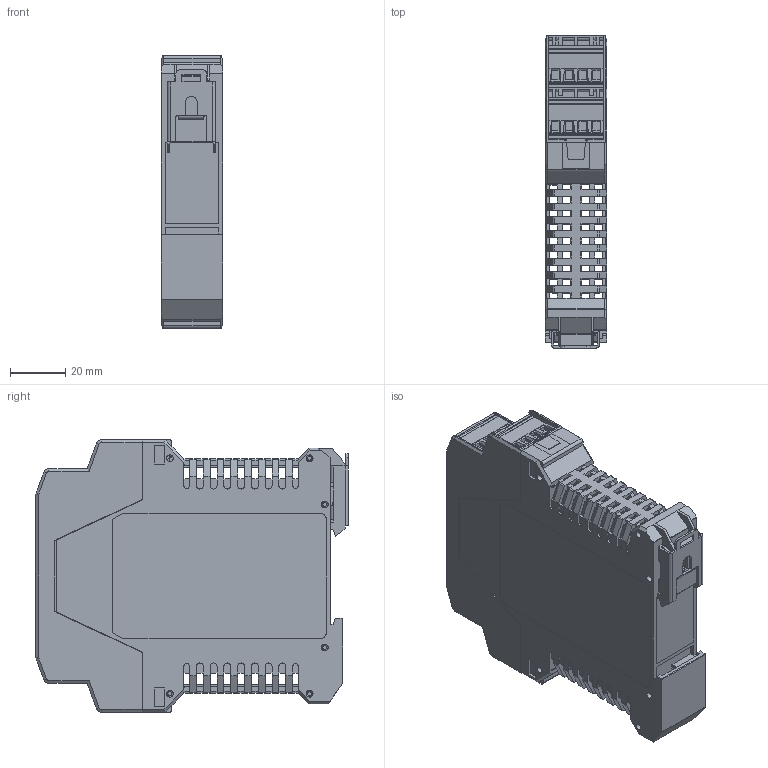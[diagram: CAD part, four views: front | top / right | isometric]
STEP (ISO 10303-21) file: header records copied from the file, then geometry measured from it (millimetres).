
FILE_DESCRIPTION((''),'2;1');
FILE_NAME('CZ3000-22_5-WH-1111_ASM','2024-01-02T16:26:27',('Admin'),(''),'CREO PARAMETRIC BY PTC INC, 2021404','CREO PARAMETRIC BY PTC INC, 2021404','');
FILE_SCHEMA(('CONFIG_CONTROL_DESIGN','SHAPE_APPEARANCE_LAYERS_GROUPS'));
Products named in the file (5): DINKLE_5ESDT-04P; 0073B01400; A000948640_SW0003; CZ3000-22_5-1111_ASM; CZ3000-22_5-WH-1111_ASM
Assembly tree (7 placements, depth 3):
  CZ3000-22_5-WH-1111_ASM
    CZ3000-22_5-1111_ASM
      DINKLE_5ESDT-04P  x4
      0073B01400
      A000948640_SW0003
Bounding box: 22.5 x 113.5 x 99 mm (x, y, z)
Volume: 22921.4 mm3; surface area: 69476.8 mm2
Topology: 5 solids, 9 shells, 2841 faces, 8063 edges, 5193 vertices
Faces by surface type: plane 1775, cylinder 706, torus 182, cone 108, bspline 70
Entity records: 79956 total; most frequent: CARTESIAN_POINT 13184, ORIENTED_EDGE 10876, DIRECTION 9856, EDGE_CURVE 5438, PRESENTATION_STYLE_ASSIGNMENT 4940, STYLED_ITEM 4934, CURVE_STYLE 4650, VECTOR 4344
